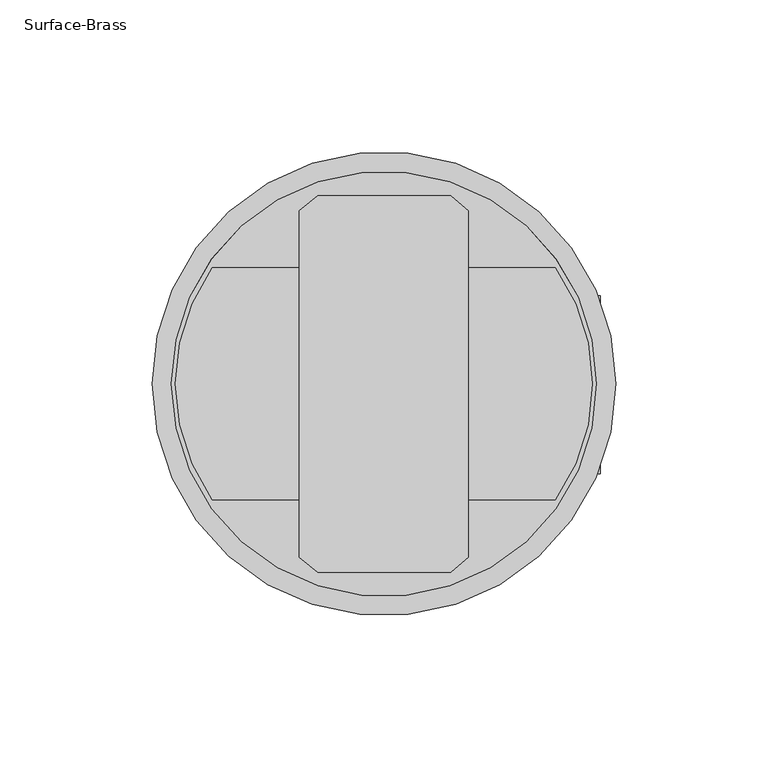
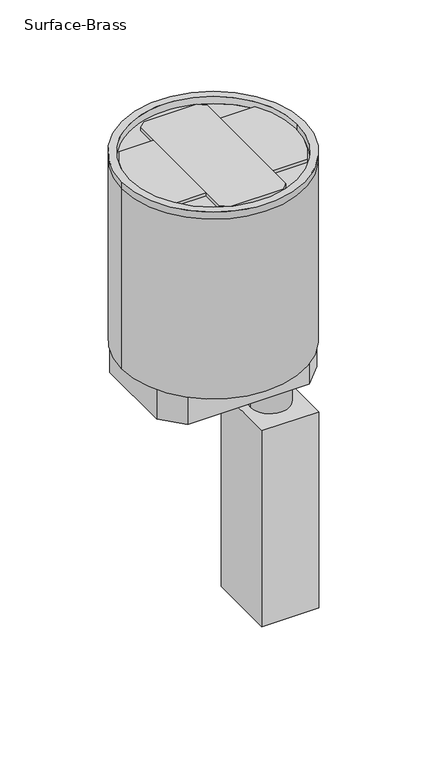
"""IFC4 building model written with IfcOpenShell, lengths in millimetres: proxy geometry, Poke_Thru-Evolution_6AT_Series-Wiremold-Prewired : Surface-Brass."""

from ifc_helpers import new_model, si_unit, point, frame, frame_2d, origin, place, context, project, spatial, polyline, circle_curve, trimmed, segment, composite_curve, outline, extrude, source, transform, mapped, element, save
from ifc_brep_helpers import plane_surface, cylinder_surface, revolved_surface, advanced_brep


def surface_brass_28cbbe57(model_context):
    return source(origin(), model_context, "Body", "SolidModel", [
        extrude(outline(polyline([(-21.8163935, 61.9125), (22.0523137, 61.9125), (27.78125, 56.9197167), (27.78125, -56.9197167), (22.0523137, -61.9125), (-21.8163935, -61.9125), (-27.78125, -56.9197167), (-27.78125, 56.9197167), (-21.8163935, 61.9125)])), frame((0.0, 0.0, -9.525), z_axis=(0.0, 0.0, 1.0), x_axis=(1.0, 0.0, 0.0)), (0.0, 0.0, 1.0), 3.175),
        advanced_brep(
        [(69.85, 0.0, -9.525), (-69.85, 0.0, -9.525), (-76.2, 0.0, -168.275), (76.2, 0.0, -168.275), (76.2, 0.0, -9.525), (-76.2, 0.0, -9.525), (-76.2, 0.0, -3.175), (76.2, 0.0, -3.175), (-69.85, 0.0, -3.175), (69.85, 0.0, -3.175)],
        [
            (0, 1, circle_curve(frame((0.0, 0.0, -9.525), z_axis=(0.0, 0.0, 1.0), x_axis=(1.0, 0.0, 0.0)), 69.85)),
            (1, 0, circle_curve(frame((0.0, 0.0, -9.525), z_axis=(0.0, 0.0, 1.0), x_axis=(1.0, 0.0, 0.0)), 69.85)),
            (2, 3, circle_curve(frame((0.0, 0.0, -168.275), z_axis=(0.0, 0.0, -1.0), x_axis=(1.0, 0.0, 0.0)), 76.2)),
            (3, 2, circle_curve(frame((0.0, 0.0, -168.275), z_axis=(0.0, 0.0, -1.0), x_axis=(1.0, 0.0, 0.0)), 76.2)),
            (3, 4),
            (4, 5, circle_curve(frame((0.0, 0.0, -9.525), z_axis=(0.0, 0.0, -1.0), x_axis=(1.0, 0.0, 0.0)), 76.2)),
            (5, 2),
            (5, 4, circle_curve(frame((0.0, 0.0, -9.525), z_axis=(0.0, 0.0, -1.0), x_axis=(1.0, 0.0, 0.0)), 76.2)),
            (6, 7, circle_curve(frame((0.0, 0.0, -3.175), z_axis=(0.0, 0.0, 1.0), x_axis=(1.0, 0.0, 0.0)), 76.2)),
            (7, 6, circle_curve(frame((0.0, 0.0, -3.175), z_axis=(0.0, 0.0, 1.0), x_axis=(1.0, 0.0, 0.0)), 76.2)),
            (8, 9, circle_curve(frame((0.0, 0.0, -3.175), z_axis=(0.0, 0.0, -1.0), x_axis=(1.0, 0.0, 0.0)), 69.85)),
            (9, 8, circle_curve(frame((0.0, 0.0, -3.175), z_axis=(0.0, 0.0, -1.0), x_axis=(1.0, 0.0, 0.0)), 69.85)),
            (6, 5),
            (4, 7),
            (8, 1),
            (0, 9),
        ],
        [
            plane_surface(frame((76.2, 0.0, -9.525), z_axis=(0.0, 0.0, 1.0), x_axis=(0.0, 1.0, 0.0))),
            plane_surface(frame((76.2, 0.0, -168.275), z_axis=(0.0, 0.0, -1.0), x_axis=(0.0, -1.0, 0.0))),
            cylinder_surface(frame((0.0, 0.0, -168.275), z_axis=(0.0, 0.0, 1.0), x_axis=(1.0, 0.0, 0.0)), 76.2),
            plane_surface(frame((76.2, 0.0, -3.175), z_axis=(0.0, 0.0, 1.0), x_axis=(0.0, 1.0, 0.0))),
            cylinder_surface(frame((0.0, 0.0, -9.525), z_axis=(0.0, 0.0, 1.0), x_axis=(1.0, 0.0, 0.0)), 76.2),
            revolved_surface(polyline([(69.85, 0.0, -9.525), (69.85, 0.0, -3.175)]), (0.0, 0.0, 0.0), (0.0, 0.0, -1.0)),
        ],
        [
            (0, [[1, 2]]),
            (1, [[3, 4]]),
            (2, [[-4, 5, 6, 7]]),
            (2, [[-3, -7, 8, -5]]),
            (3, [[9, 10], [11, 12]]),
            (4, [[-9, 13, -6, 14]]),
            (4, [[-10, -14, -8, -13]]),
            (5, [[-11, 15, -1, 16]]),
            (5, [[-12, -16, -2, -15]]),
        ],
    ),
        extrude(outline(polyline([(50.8, 50.8), (66.675, 34.036), (66.675, -34.036), (50.8, -50.8), (-50.8, -50.8), (-66.675, -34.036), (-66.675, 34.036), (-50.8, 50.8), (50.8, 50.8)])), frame((0.0, 0.0, -195.2752), z_axis=(0.0, 0.0, 1.0), x_axis=(1.0, 0.0, 0.0)), (0.0, 0.0, 1.0), 27.0002),
        extrude(outline(composite_curve([segment(trimmed(circle_curve(frame_2d((47.244, 0.0)), 11.1252), [point((36.1188, 0.0))], [point((58.3692, 0.0))], False, "CARTESIAN"), True, "CONTINUOUS"), segment(trimmed(circle_curve(frame_2d((47.244, 0.0)), 11.1252), [point((58.3692, 0.0))], [point((36.1188, 0.0))], False, "CARTESIAN"), True, "CONTINUOUS")], self_intersect=False)), frame((0.0, 0.0, -220.6752), z_axis=(0.0, 0.0, 1.0), x_axis=(1.0, 0.0, 0.0)), (0.0, 0.0, 1.0), 25.4),
        extrude(outline(composite_curve([segment(trimmed(circle_curve(frame_2d((47.244, 0.0)), 16.0528), [point((31.1912, 0.0))], [point((63.2968, 0.0))], False, "CARTESIAN"), True, "CONTINUOUS"), segment(trimmed(circle_curve(frame_2d((47.244, 0.0)), 16.0528), [point((63.2968, 0.0))], [point((31.1912, 0.0))], False, "CARTESIAN"), True, "CONTINUOUS")], self_intersect=False)), frame((0.0, 0.0, -239.7252), z_axis=(0.0, 0.0, 1.0), x_axis=(1.0, 0.0, 0.0)), (0.0, 0.0, 1.0), 19.05),
        extrude(outline(polyline([(71.0438, 28.980332), (71.0438, -29.439668), (23.4442, -29.439668), (23.4442, 28.980332), (71.0438, 28.980332)])), frame((0.0, 0.0, -412.75), z_axis=(0.0, 0.0, 1.0), x_axis=(1.0, 0.0, 0.0)), (0.0, 0.0, 1.0), 173.0248),
        extrude(outline(composite_curve([segment(polyline([(-27.8003, -38.1), (-56.4048196, -38.1)]), True, "CONTINUOUS"), segment(trimmed(circle_curve(frame_2d((-2.7137129, 0.0)), 65.8357422), [point((-56.4048196, -38.1))], [point((-56.4048196, 38.1))], False, "CARTESIAN"), True, "CONTINUOUS"), segment(polyline([(-56.4048196, 38.1), (-27.8003, 38.1), (-27.8003, -38.1)]), True, "CONTINUOUS")], self_intersect=False)), frame((0.0, 0.0, -9.525), z_axis=(0.0, 0.0, 1.0), x_axis=(1.0, 0.0, 0.0)), (0.0, 0.0, 1.0), 3.175),
        extrude(outline(composite_curve([segment(polyline([(27.8003, -38.1), (27.8003, 38.1), (56.4048196, 38.1)]), True, "CONTINUOUS"), segment(trimmed(circle_curve(frame_2d((2.7137129, 0.0)), 65.8357422), [point((56.4048196, 38.1))], [point((56.4048196, -38.1))], False, "CARTESIAN"), True, "CONTINUOUS"), segment(polyline([(56.4048196, -38.1), (27.8003, -38.1)]), True, "CONTINUOUS")], self_intersect=False)), frame((0.0, 0.0, -9.525), z_axis=(0.0, 0.0, 1.0), x_axis=(1.0, 0.0, 0.0)), (0.0, 0.0, 1.0), 3.175),
    ])


if __name__ == "__main__":
    model = new_model("IFC4")
    model_context = context("Model", 3, world=origin())
    ifc_project = project(units=[si_unit("LENGTHUNIT", "METRE", prefix="MILLI")], contexts=[model_context])
    site = spatial("IfcSite", under=ifc_project)
    building = spatial("IfcBuilding", under=site)
    placement = place(None, origin())
    surface_brass_shape = surface_brass_28cbbe57(model_context)
    element("IfcBuildingElementProxy", 1, Name="Poke_Thru-Evolution_6AT_Series-Wiremold-Prewired : Surface-Brass", ObjectType="Poke_Thru-Evolution_6AT_Series-Wiremold-Prewired : Surface-Brass", at=placement, inside=building, context=model_context, shape_type="MappedRepresentation", body=[
        mapped(surface_brass_shape, transform((0.0, 0.0, 0.0), x_axis=(1.0, 0.0, 0.0), y_axis=(0.0, 1.0, 0.0), z_axis=(0.0, 0.0, 1.0))),
    ])
    save(model, "model.ifc")
